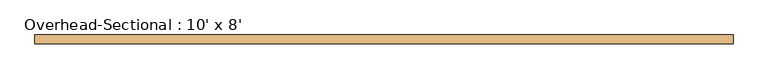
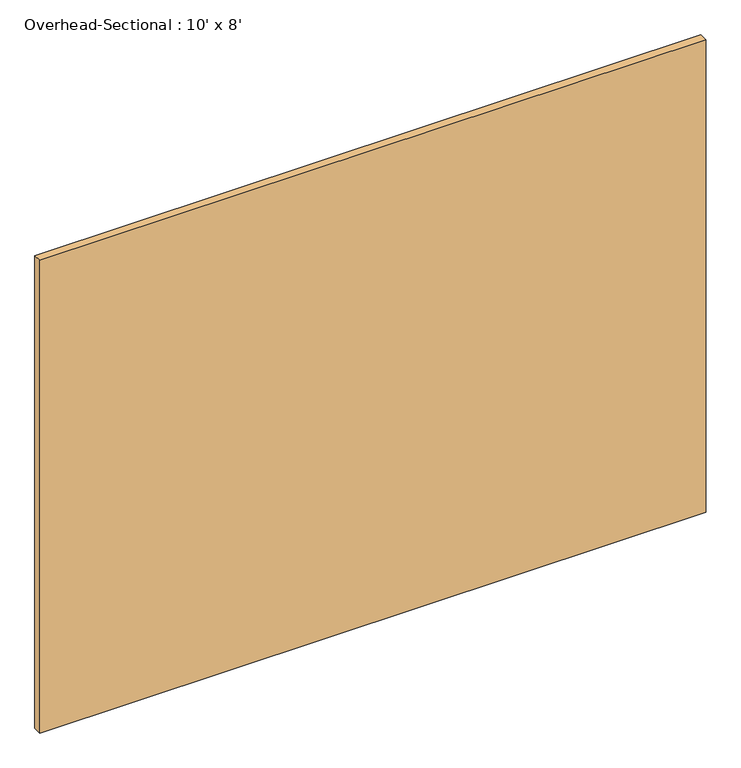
"""IFC4 building model written with IfcOpenShell, lengths in millimetres: door geometry, Overhead-Sectional : 10' x 8'."""

import ifcopenshell
import ifcopenshell.guid

model = None  # the IFC model being written
_history = None  # IfcOwnerHistory: only IFC2X3 demands one
_inside = {}  # id of a spatial element -> (the spatial element, [elements in it])
_under = {}  # id of a project, library or spatial element -> (it, [spatial elements below it])
_declared = {}  # id of a project -> (the project, [libraries it declares])
_typed = {}  # id of a type object -> (the type object, [elements of that type])
_made_of = {}  # id of a material, layer set ... -> (it, [elements and type objects made of it])


def new_model(schema):
    """Start an empty IFC model of exactly this schema.

    Asked for "IFC4X3", IfcOpenShell would pick the latest addendum, in which some entities
    have other attributes; the version numbers below select the first issue.
    IFC2X3 requires an IfcOwnerHistory on every rooted entity: one is made here for all.
    """
    global model, _history
    if schema == "IFC4X3":
        model = ifcopenshell.file(schema_version=(4, 3, 0, 0))
    else:
        model = ifcopenshell.file(schema=schema)
    _inside.clear()
    _under.clear()
    _declared.clear()
    _typed.clear()
    _made_of.clear()
    _history = None
    if model.schema == "IFC2X3":
        org = make("IfcOrganization", Name="unknown")
        user = make(
            "IfcPersonAndOrganization",
            ThePerson=make("IfcPerson", FamilyName="unknown"),
            TheOrganization=org,
        )
        app = make(
            "IfcApplication",
            ApplicationDeveloper=org,
            Version="unknown",
            ApplicationFullName="unknown",
            ApplicationIdentifier="unknown",
        )
        _history = make(
            "IfcOwnerHistory",
            OwningUser=user,
            OwningApplication=app,
            ChangeAction="ADDED",
            CreationDate=0,
        )
    return model


def make(cls, **values):
    """One entity of the class cls with the attributes given. An attribute that is None is left unset."""
    return model.create_entity(
        cls, **{name: value for name, value in values.items() if value is not None}
    )


def rooted(cls, **values):
    """An entity with a GlobalId (a new one), such as an element, a storey or a relation."""
    return make(cls, GlobalId=ifcopenshell.guid.new(), OwnerHistory=_history, **values)


def si_unit(unit_type, name, prefix=None):
    """IfcSIUnit, for example si_unit("LENGTHUNIT", "METRE", prefix="MILLI")."""
    return make("IfcSIUnit", UnitType=unit_type, Prefix=prefix, Name=name)


def assignment(units):
    """IfcUnitAssignment: the units of a project."""
    return None if units is None else make("IfcUnitAssignment", Units=units)


def point(xyz):
    """IfcCartesianPoint."""
    return None if xyz is None else make("IfcCartesianPoint", Coordinates=xyz)


def direction(xyz):
    """IfcDirection."""
    return None if xyz is None else make("IfcDirection", DirectionRatios=xyz)


def frame(location, z_axis=None, x_axis=None):
    """IfcAxis2Placement3D, a coordinate frame: its origin and axes. An axis left out is left unset."""
    return make(
        "IfcAxis2Placement3D",
        Location=point(location),
        Axis=direction(z_axis),
        RefDirection=direction(x_axis),
    )


def origin():
    """The frame at (0, 0, 0) with its axes left unset."""
    return frame((0.0, 0.0, 0.0))


def origin_with_axes():
    """The frame at (0, 0, 0) with the z axis (0, 0, 1) and the x axis (1, 0, 0) written out."""
    return frame((0.0, 0.0, 0.0), z_axis=(0.0, 0.0, 1.0), x_axis=(1.0, 0.0, 0.0))


def place(relative_to, where):
    """IfcLocalPlacement: puts the frame where relative to a parent placement (None: the world)."""
    return make(
        "IfcLocalPlacement", PlacementRelTo=relative_to, RelativePlacement=where
    )


def context(
    kind, dimensions, precision=None, world=None, true_north=None, identifier=None
):
    """IfcGeometricRepresentationContext, for example the 3D "Model" context."""
    return make(
        "IfcGeometricRepresentationContext",
        ContextIdentifier=identifier,
        ContextType=kind,
        CoordinateSpaceDimension=dimensions,
        Precision=precision,
        WorldCoordinateSystem=world,
        TrueNorth=true_north,
    )


def project(units=None, contexts=None):
    """IfcProject with its units and contexts."""
    return rooted(
        "IfcProject",
        Name="project",
        RepresentationContexts=contexts,
        UnitsInContext=assignment(units),
    )


def spatial(cls, under=None, at=None, **own):
    """A site, building, storey or space (cls), placed at a placement, below another one or the project."""
    s = rooted(cls, ObjectPlacement=at, **own)
    if under is not None:
        _under.setdefault(under.id(), (under, []))[1].append(s)
    return s


def polyline(points):
    """IfcPolyline through the points."""
    return make("IfcPolyline", Points=[point(p) for p in points])


def outline(outer, holes=None, kind="AREA"):
    """IfcArbitraryClosedProfileDef: a profile drawn as a closed curve; with holes, ...WithVoids."""
    if holes is None:
        return make("IfcArbitraryClosedProfileDef", ProfileType=kind, OuterCurve=outer)
    return make(
        "IfcArbitraryProfileDefWithVoids",
        ProfileType=kind,
        OuterCurve=outer,
        InnerCurves=holes,
    )


def extrude(swept, where, along, depth):
    """IfcExtrudedAreaSolid: the profile swept, set in the frame where, extruded along a direction by depth."""
    return make(
        "IfcExtrudedAreaSolid",
        SweptArea=swept,
        Position=where,
        ExtrudedDirection=direction(along),
        Depth=depth,
    )


def shape(context_of_items, identifier, shape_type, items):
    """IfcShapeRepresentation: the items that make up one representation, for example the "Body"."""
    return make(
        "IfcShapeRepresentation",
        ContextOfItems=context_of_items,
        RepresentationIdentifier=identifier,
        RepresentationType=shape_type,
        Items=items,
    )


def source(mapping_origin, context_of_items, identifier, shape_type, items):
    """IfcRepresentationMap: a shape defined once, which mapped items show again and again."""
    return make(
        "IfcRepresentationMap",
        MappingOrigin=mapping_origin,
        MappedRepresentation=shape(context_of_items, identifier, shape_type, items),
    )


def transform(
    local_origin,
    x_axis=None,
    y_axis=None,
    z_axis=None,
    scale=None,
    scale2=None,
    scale3=None,
    uniform=True,
):
    """IfcCartesianTransformationOperator3D, or its non-uniform kind. x_axis, y_axis, z_axis: its Axis1, 2, 3."""
    if uniform:
        return make(
            "IfcCartesianTransformationOperator3D",
            Axis1=direction(x_axis),
            Axis2=direction(y_axis),
            LocalOrigin=point(local_origin),
            Scale=scale,
            Axis3=direction(z_axis),
        )
    return make(
        "IfcCartesianTransformationOperator3DnonUniform",
        Axis1=direction(x_axis),
        Axis2=direction(y_axis),
        LocalOrigin=point(local_origin),
        Scale=scale,
        Axis3=direction(z_axis),
        Scale2=scale2,
        Scale3=scale3,
    )


def mapped(mapping_source, mapping_target):
    """IfcMappedItem: shows the shape of a source again, moved by a transform."""
    return make(
        "IfcMappedItem", MappingSource=mapping_source, MappingTarget=mapping_target
    )


def made_of(thing, what):
    """Note that an element or type object is made of a material, layer set ...; save() writes the relation."""
    if what is not None:
        _made_of.setdefault(what.id(), (what, []))[1].append(thing)
    return thing


def element(
    cls,
    number,
    at=None,
    inside=None,
    cuts=None,
    type_object=None,
    material=None,
    context=None,
    identifier="Body",
    shape_type=None,
    held_by="IfcProductDefinitionShape",
    body=None,
    shapes=None,
    **own,
):
    """One element of the class cls, such as IfcWall. Its Tag is "e" and its number.

    at: its placement. inside: the storey or other place that contains it. cuts: it is an
    opening in that element (IfcRelVoidsElement). A single representation is given by context,
    identifier, shape_type and body (its items); several are given by shapes. held_by: the class
    of the entity that holds the representations. save() writes the other relations.
    """
    e = rooted(cls, Tag="e%d" % number, ObjectPlacement=at, **own)
    if body is not None:
        shapes = [shape(context, identifier, shape_type, body)]
    if shapes is not None:
        e.Representation = make(held_by, Representations=shapes)
    if inside is not None:
        _inside.setdefault(inside.id(), (inside, []))[1].append(e)
    if cuts is not None:
        rooted(
            "IfcRelVoidsElement", RelatingBuildingElement=cuts, RelatedOpeningElement=e
        )
    if type_object is not None:
        _typed.setdefault(type_object.id(), (type_object, []))[1].append(e)
    return made_of(e, material)


def aggregate(whole, parts):
    """IfcRelAggregates: a whole, such as a stair, and the parts it consists of."""
    return rooted("IfcRelAggregates", RelatingObject=whole, RelatedObjects=parts)


def save(model, path):
    """Write the relations noted so far, then the file.

    IfcRelAggregates (storeys below a building ...), IfcRelContainedInSpatialStructure (elements
    in a storey), IfcRelDefinesByType, IfcRelAssociatesMaterial and IfcRelDeclares: one each for
    every whole, place, type object, material and project.
    """
    for whole, parts in _under.values():
        aggregate(whole, parts)
    for where, things in _inside.values():
        rooted(
            "IfcRelContainedInSpatialStructure",
            RelatedElements=things,
            RelatingStructure=where,
        )
    for kind, things in _typed.values():
        rooted("IfcRelDefinesByType", RelatedObjects=things, RelatingType=kind)
    for what, things in _made_of.values():
        rooted("IfcRelAssociatesMaterial", RelatedObjects=things, RelatingMaterial=what)
    for by, libraries in _declared.values():
        rooted("IfcRelDeclares", RelatingContext=by, RelatedDefinitions=libraries)
    model.write(path)


def overhead_sectional_10_x_8_f8e7c13f(model_context):
    return source(origin(), model_context, "Body", "SweptSolid", [
        extrude(outline(polyline([(1524.0, -176.2125), (1524.0, -214.3125), (-1524.0, -214.3125), (-1524.0, -176.2125), (1524.0, -176.2125)])), origin_with_axes(), (0.0, 0.0, 1.0), 2286.0),
    ])


if __name__ == "__main__":
    model = new_model("IFC4")
    model_context = context("Model", 3, world=origin())
    ifc_project = project(units=[si_unit("LENGTHUNIT", "METRE", prefix="MILLI")], contexts=[model_context])
    site = spatial("IfcSite", under=ifc_project)
    building = spatial("IfcBuilding", under=site)
    placement = place(None, origin())
    overhead_sectional_10_x_8_shape = overhead_sectional_10_x_8_f8e7c13f(model_context)
    element("IfcDoor", 1, ObjectType="Overhead-Sectional : 10' x 8'", at=placement, inside=building, context=model_context, shape_type="MappedRepresentation", body=[
        mapped(overhead_sectional_10_x_8_shape, transform((0.0, 0.0, 0.0), x_axis=(1.0, 0.0, 0.0), y_axis=(0.0, 1.0, 0.0), z_axis=(0.0, 0.0, 1.0))),
    ])
    save(model, "model.ifc")
